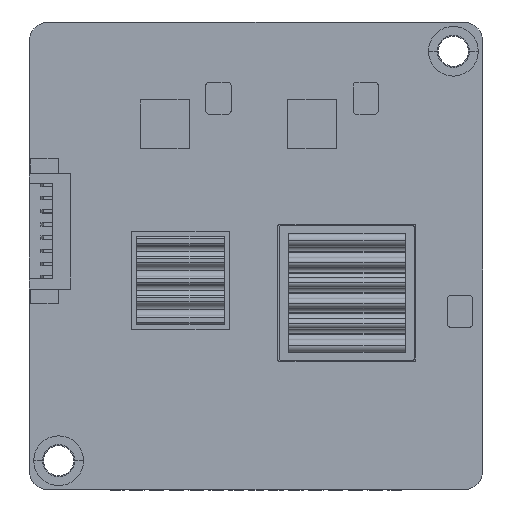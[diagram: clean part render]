
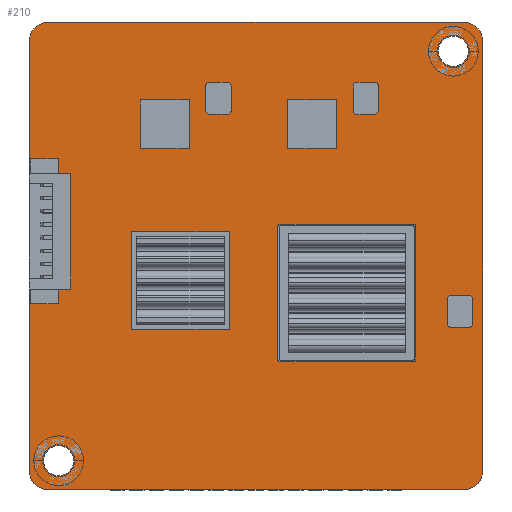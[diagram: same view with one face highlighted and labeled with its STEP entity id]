
A CAD part, top view. The second image highlights one B-rep face of the part: STEP entity #210.
In plain terms, the highlighted planar face has unit normal (0, 0, 1).
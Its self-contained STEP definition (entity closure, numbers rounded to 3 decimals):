
#210=ADVANCED_FACE('',(#1294,#1290,#1291),#15070,.T.);
#1290=FACE_BOUND('',#2375,.T.);
#1291=FACE_BOUND('',#2376,.T.);
#1294=FACE_OUTER_BOUND('',#2374,.T.);
#2374=EDGE_LOOP('',(#3458,#3459,#3460,#3461,#3462,#3463,#3464,#3465));
#2375=EDGE_LOOP('',(#3466));
#2376=EDGE_LOOP('',(#3467));
#3458=ORIENTED_EDGE('',*,*,#8364,.T.);
#3459=ORIENTED_EDGE('',*,*,#8369,.T.);
#3460=ORIENTED_EDGE('',*,*,#8359,.T.);
#3461=ORIENTED_EDGE('',*,*,#8370,.T.);
#3462=ORIENTED_EDGE('',*,*,#8361,.T.);
#3463=ORIENTED_EDGE('',*,*,#8366,.T.);
#3464=ORIENTED_EDGE('',*,*,#8363,.T.);
#3465=ORIENTED_EDGE('',*,*,#8371,.T.);
#3466=ORIENTED_EDGE('',*,*,#8372,.T.);
#3467=ORIENTED_EDGE('',*,*,#8373,.T.);
#8359=EDGE_CURVE('',#13441,#13440,#11187,.T.);
#8361=EDGE_CURVE('',#13442,#13438,#11189,.T.);
#8363=EDGE_CURVE('',#13439,#13443,#11191,.T.);
#8364=EDGE_CURVE('',#13445,#13444,#11192,.T.);
#8366=EDGE_CURVE('',#13438,#13439,#10814,.T.);
#8369=EDGE_CURVE('',#13444,#13441,#10815,.T.);
#8370=EDGE_CURVE('',#13440,#13442,#10816,.T.);
#8371=EDGE_CURVE('',#13443,#13445,#10817,.T.);
#8372=EDGE_CURVE('',#13446,#13446,#11002,.T.);
#8373=EDGE_CURVE('',#13447,#13447,#11003,.T.);
#10814=TRIMMED_CURVE($,#10998,(#18922),(#18923),.T.,.CARTESIAN.);
#10815=TRIMMED_CURVE($,#10999,(#18929),(#18930),.T.,.CARTESIAN.);
#10816=TRIMMED_CURVE($,#11000,(#18932),(#18933),.T.,.CARTESIAN.);
#10817=TRIMMED_CURVE($,#11001,(#18935),(#18936),.T.,.CARTESIAN.);
#10998=CIRCLE('',#16160,2.);
#10999=CIRCLE('',#16161,2.);
#11000=CIRCLE('',#16162,2.);
#11001=CIRCLE('',#16163,2.);
#11002=CIRCLE('',#16164,1.55);
#11003=CIRCLE('',#16165,1.55);
#11187=B_SPLINE_CURVE_WITH_KNOTS('',1,(#18907,#18908),.UNSPECIFIED.,.F.,
 .F.,(2,2),(2.,44.5),.UNSPECIFIED.);
#11189=B_SPLINE_CURVE_WITH_KNOTS('',1,(#18911,#18912),.UNSPECIFIED.,.F.,
 .F.,(2,2),(48.5,92.5),.UNSPECIFIED.);
#11191=B_SPLINE_CURVE_WITH_KNOTS('',1,(#18915,#18916),.UNSPECIFIED.,.F.,
 .F.,(2,2),(96.5,139.),.UNSPECIFIED.);
#11192=B_SPLINE_CURVE_WITH_KNOTS('',1,(#18917,#18918),.UNSPECIFIED.,.F.,
 .F.,(2,2),(143.,187.),.UNSPECIFIED.);
#13438=VERTEX_POINT('',#18877);
#13439=VERTEX_POINT('',#18878);
#13440=VERTEX_POINT('',#18879);
#13441=VERTEX_POINT('',#18880);
#13442=VERTEX_POINT('',#18881);
#13443=VERTEX_POINT('',#18882);
#13444=VERTEX_POINT('',#18883);
#13445=VERTEX_POINT('',#18884);
#13446=VERTEX_POINT('',#18885);
#13447=VERTEX_POINT('',#18886);
#15070=PLANE('',#16142);
#16142=AXIS2_PLACEMENT_3D('',#18859,#17406,$);
#16160=AXIS2_PLACEMENT_3D($,#18921,#17424,#17425);
#16161=AXIS2_PLACEMENT_3D($,#18928,#17426,#17427);
#16162=AXIS2_PLACEMENT_3D($,#18931,#17428,#17429);
#16163=AXIS2_PLACEMENT_3D($,#18934,#17430,#17431);
#16164=AXIS2_PLACEMENT_3D($,#18937,#17432,#17433);
#16165=AXIS2_PLACEMENT_3D($,#18938,#17434,#17435);
#17406=DIRECTION('',(0.,0.,1.));
#17424=DIRECTION('',(0.,0.,1.));
#17425=DIRECTION('',(1.,0.,0.));
#17426=DIRECTION('',(0.,0.,1.));
#17427=DIRECTION('',(-1.,0.,0.));
#17428=DIRECTION('',(0.,0.,1.));
#17429=DIRECTION('',(0.,-1.,0.));
#17430=DIRECTION('',(0.,0.,1.));
#17431=DIRECTION('',(0.,1.,0.));
#17432=DIRECTION('',(0.,0.,-1.));
#17433=DIRECTION('',(-1.,0.,0.));
#17434=DIRECTION('',(0.,0.,-1.));
#17435=DIRECTION('',(1.,0.,0.));
#18859=CARTESIAN_POINT('',(-23.25,-24.,1.6));
#18877=CARTESIAN_POINT('',(23.25,22.,1.6));
#18878=CARTESIAN_POINT('',(21.25,24.,1.6));
#18879=CARTESIAN_POINT('',(21.25,-24.,1.6));
#18880=CARTESIAN_POINT('',(-21.25,-24.,1.6));
#18881=CARTESIAN_POINT('',(23.25,-22.,1.6));
#18882=CARTESIAN_POINT('',(-21.25,24.,1.6));
#18883=CARTESIAN_POINT('',(-23.25,-22.,1.6));
#18884=CARTESIAN_POINT('',(-23.25,22.,1.6));
#18885=CARTESIAN_POINT('',(-21.797,-21.,1.6));
#18886=CARTESIAN_POINT('',(21.797,21.,1.6));
#18907=CARTESIAN_POINT('',(-21.25,-24.,1.6));
#18908=CARTESIAN_POINT('',(21.25,-24.,1.6));
#18911=CARTESIAN_POINT('',(23.25,-22.,1.6));
#18912=CARTESIAN_POINT('',(23.25,22.,1.6));
#18915=CARTESIAN_POINT('',(21.25,24.,1.6));
#18916=CARTESIAN_POINT('',(-21.25,24.,1.6));
#18917=CARTESIAN_POINT('',(-23.25,22.,1.6));
#18918=CARTESIAN_POINT('',(-23.25,-22.,1.6));
#18921=CARTESIAN_POINT('',(21.25,22.,1.6));
#18922=CARTESIAN_POINT('',(23.25,22.,1.6));
#18923=CARTESIAN_POINT('',(21.25,24.,1.6));
#18928=CARTESIAN_POINT('',(-21.25,-22.,1.6));
#18929=CARTESIAN_POINT('',(-23.25,-22.,1.6));
#18930=CARTESIAN_POINT('',(-21.25,-24.,1.6));
#18931=CARTESIAN_POINT('',(21.25,-22.,1.6));
#18932=CARTESIAN_POINT('',(21.25,-24.,1.6));
#18933=CARTESIAN_POINT('',(23.25,-22.,1.6));
#18934=CARTESIAN_POINT('',(-21.25,22.,1.6));
#18935=CARTESIAN_POINT('',(-21.25,24.,1.6));
#18936=CARTESIAN_POINT('',(-23.25,22.,1.6));
#18937=CARTESIAN_POINT('',(-20.247,-21.,1.6));
#18938=CARTESIAN_POINT('',(20.247,21.,1.6));
